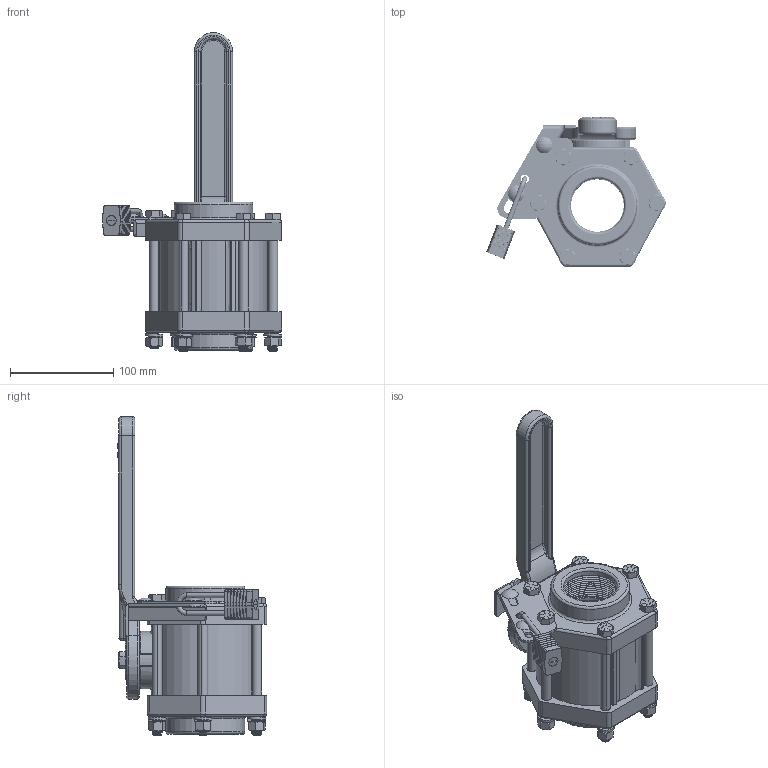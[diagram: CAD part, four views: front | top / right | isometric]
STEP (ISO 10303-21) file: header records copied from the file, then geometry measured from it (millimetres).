
FILE_DESCRIPTION(/* description */ ('Alibre Inc.'),/* implementation_level */ '2;1');
FILE_NAME(/* name */ 'export0',/* time_stamp */ '2017-12-06T09:08:00-05:00',/* author */ (''),/* organization */ (''),/* preprocessor_version */ 'ST-DEVELOPER v14',/* originating_system */ 'Alibre',/* authorisation */ '');
FILE_SCHEMA (('CONFIG_CONTROL_DESIGN'));
Length unit declared in the file: inch
Products named in the file (23): ID_1; ID_2; ID_3; ID_4; ID_5; ID_6; ID_7; ID_8; ID_9; ID_10; ID_11; ID_12; ID_13; ID_14; ID_15; ID_16; ID_17; ID_18; ID_19; ID_20
Bounding box: 173.46 x 144.27 x 307.98 mm (x, y, z)
Volume: 1077438.3 mm3; surface area: 313738.7 mm2
Topology: 48 solids, 48 shells, 1796 faces, 4474 edges, 2858 vertices
Faces by surface type: cylinder 716, plane 520, cone 242, torus 158, bspline 149, sphere 11
Full cylindrical faces by diameter (mm): 2.388 x4, 3.048 x2, 4.115 x2, 4.763 x2, 4.953 x14, 6.35 x2, 7.798 x1, 8.001 x2, 9.144 x2, 9.8 x1, 9.906 x12, 10.287 x2, 10.414 x1, 25.146 x2, 25.273 x1, 25.4 x2, 31.496 x3, 35.814 x1, 36.576 x4, 38.1 x1, 50.8 x2, 52.07 x4, 52.324 x1, 55.626 x1, 76.2 x2, 83.312 x2, 84.836 x1, 91.44 x2, 91.948 x2, 94.488 x2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
Entity records: 58440 total; most frequent: CARTESIAN_POINT 38716, ORIENTED_EDGE 3684, DIRECTION 2915, EDGE_CURVE 1841, AXIS2_PLACEMENT_3D 1236, VERTEX_POINT 1223, FACE_BOUND 923, EDGE_LOOP 922
